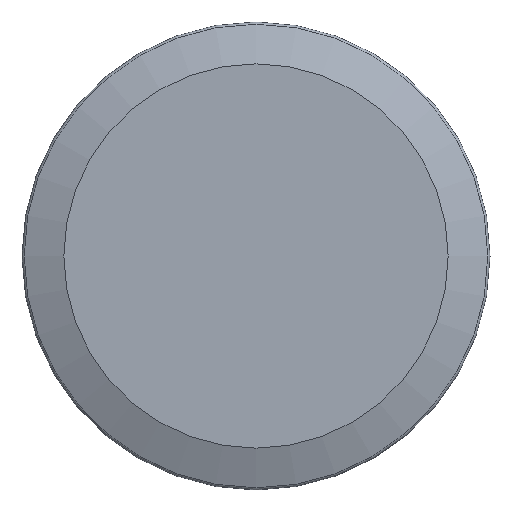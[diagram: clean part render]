
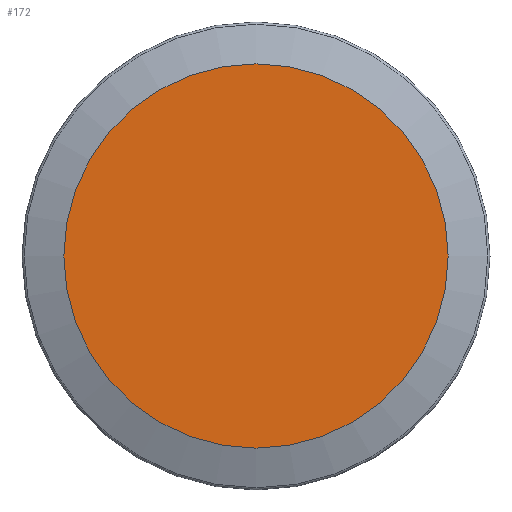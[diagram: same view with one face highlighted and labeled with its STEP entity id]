
A CAD part, left-side view. The second image highlights one B-rep face of the part: STEP entity #172.
In plain terms, the highlighted planar face has unit normal (-1, 0, 0).
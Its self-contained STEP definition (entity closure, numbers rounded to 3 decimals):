
#17=PLANE('',#223);
#40=FACE_OUTER_BOUND('',#52,.T.);
#52=EDGE_LOOP('',(#145));
#64=CIRCLE('',#211,43.521);
#78=VERTEX_POINT('',#310);
#95=EDGE_CURVE('',#78,#78,#64,.T.);
#145=ORIENTED_EDGE('',*,*,#95,.T.);
#172=ADVANCED_FACE('',(#40),#17,.F.);
#211=AXIS2_PLACEMENT_3D('',#312,#257,#258);
#223=AXIS2_PLACEMENT_3D('',#331,#284,#285);
#257=DIRECTION('center_axis',(-1.,0.,0.));
#258=DIRECTION('ref_axis',(0.,-1.,0.));
#284=DIRECTION('center_axis',(1.,0.,0.));
#285=DIRECTION('ref_axis',(0.,1.,0.));
#310=CARTESIAN_POINT('',(-10.231,-34.774,0.));
#312=CARTESIAN_POINT('Origin',(-10.231,8.747,0.));
#331=CARTESIAN_POINT('Origin',(-10.231,52.268,0.));
